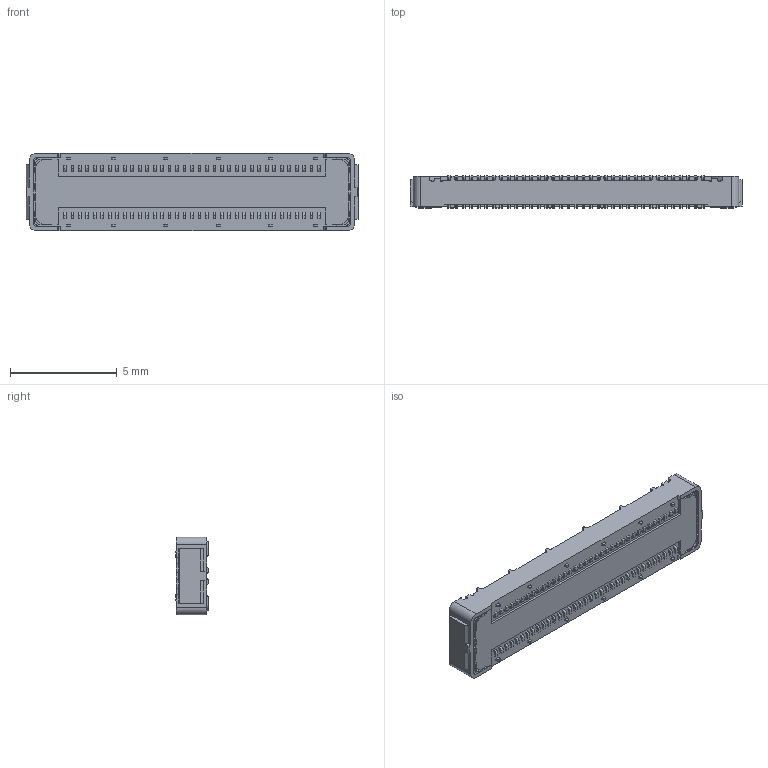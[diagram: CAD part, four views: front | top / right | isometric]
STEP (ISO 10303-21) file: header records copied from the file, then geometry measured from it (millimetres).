
FILE_DESCRIPTION (( 'STEP AP203' ), '1' );
FILE_NAME ('21003-070E+21004-070EC NOVASTACK 35-HDH MATING STEP R4R5.STEP', '2024-05-15T06:22:10', ( '' ), ( '' ), 'SwSTEP 2.0', 'SolidWorks 2023', '' );
FILE_SCHEMA (( 'CONFIG_CONTROL_DESIGN' ));
Products named in the file (1): 21003-070E+21004-070EC NOVASTACK 35-HDH MATING STEP R4R5
Bounding box: 15.55 x 1.5 x 3.64 mm (x, y, z)
Volume: 71.3 mm3; surface area: 203.2 mm2
Topology: 1 solids, 1 shells, 2071 faces, 5678 edges, 3764 vertices
Faces by surface type: plane 1487, cylinder 584
Entity records: 65413 total; most frequent: CARTESIAN_POINT 11538, ORIENTED_EDGE 11356, DIRECTION 10990, EDGE_CURVE 5678, LINE 4494, VECTOR 4494, VERTEX_POINT 3764, AXIS2_PLACEMENT_3D 3248
